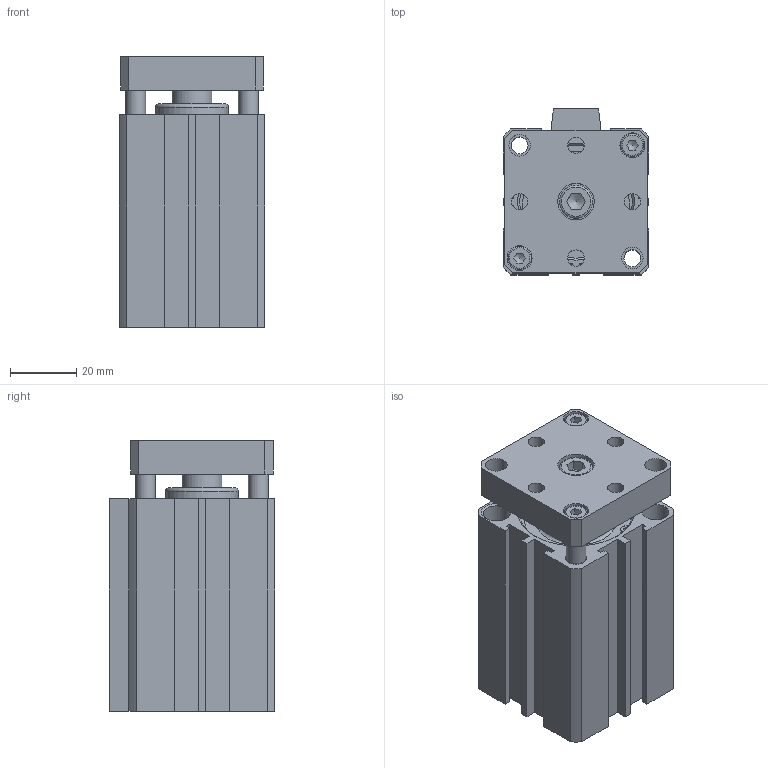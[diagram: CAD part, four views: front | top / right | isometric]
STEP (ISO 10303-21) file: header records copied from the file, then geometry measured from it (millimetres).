
FILE_DESCRIPTION((''),'2;1');
FILE_NAME('I:\3D電子目錄\氣缸\JTD\JTD\JTD32\JTD32x40.stp','2007-08-09T20:29:01',('Administrator'),(''),'Autodesk Inventor 11','Autodesk Inventor 11','');
FILE_SCHEMA(('AUTOMOTIVE_DESIGN { 1 0 10303 214 1 1 1 1 }'));
Length unit declared in the file: millimetre
Products named in the file (5): JTD32; R 形環 35; ISO 4762 M6 x 10; ISO 4762 M4 x 10
Assembly tree (6 placements, depth 2):
  JTD32
    JTD32
    R 形環 35  x2
    ISO 4762 M6 x 10
    ISO 4762 M4 x 10  x2
Bounding box: 44 x 50 x 81.5 mm (x, y, z)
Volume: 123291.9 mm3; surface area: 36968.7 mm2
Topology: 6 solids, 6 shells, 201 faces, 465 edges, 305 vertices
Faces by surface type: plane 114, cylinder 51, bspline 19, cone 12, torus 5
Full cylindrical faces by diameter (mm): 1.9 x4, 2.2 x2, 4 x2, 5.1 x2, 6 x3, 6.5 x4, 7 x2, 8 x4, 10 x1, 12 x1, 22 x1, 23 x1, 34 x4, 36 x2
Entity records: 5049 total; most frequent: CARTESIAN_POINT 1119, DIRECTION 784, ORIENTED_EDGE 684, EDGE_CURVE 342, AXIS2_PLACEMENT_3D 287, EDGE_LOOP 284, VERTEX_POINT 260, VECTOR 210
